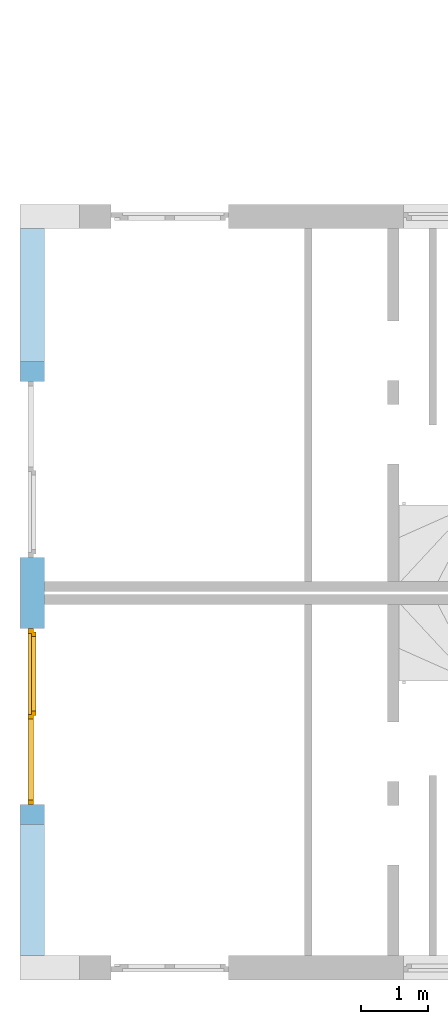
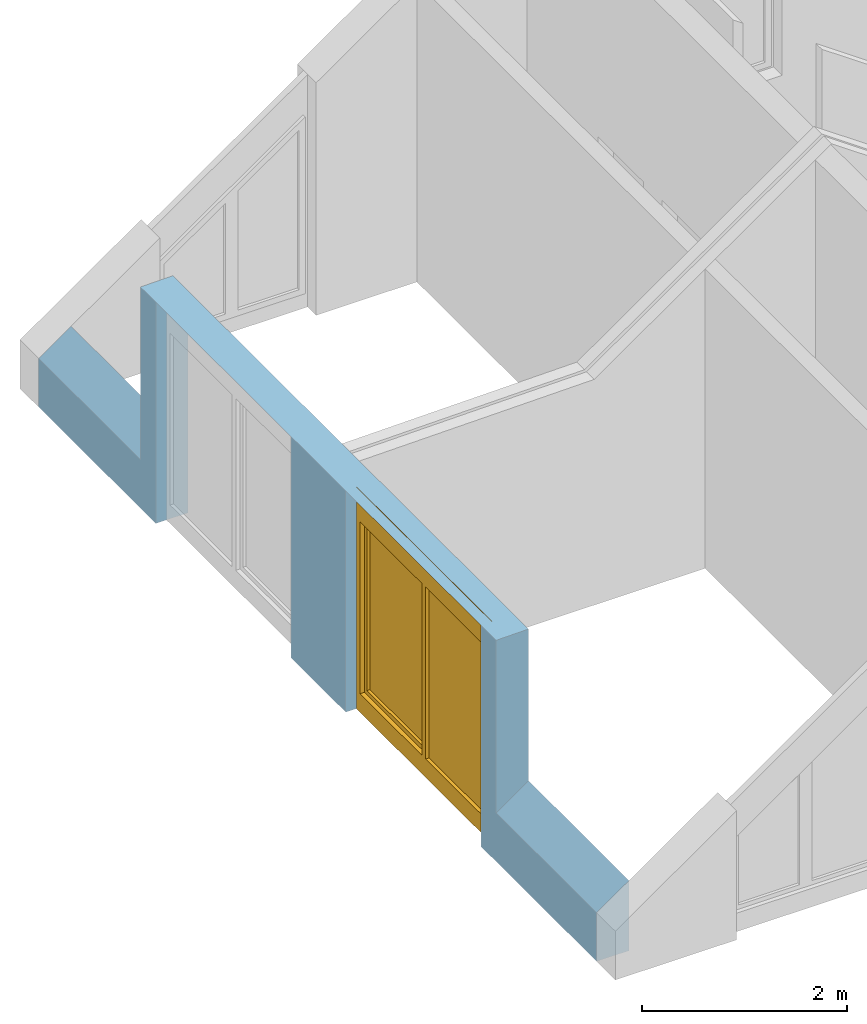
# One storey, part 7 of 23: 1 window, 2 openings, plus 1 element that does not belong to this part.
"""IFC2X3 building model written with IfcOpenShell, lengths in millimetres."""

from ifc_helpers import new_model, entity, si_unit, converted_unit, frame, frame_2d, origin, origin_with_axes, place, context, subcontext, project, spatial, polyline, rectangle, extrude, clip, bounded_halfspace, faceted_brep, material, layer, layer_set, layer_usage, type_object, element, fill, save


model = new_model("IFC2X3")

# Units and contexts
model_context = context("Model", 3, precision=1e-05, world=origin())
body_context = subcontext(model_context, "Body", "Model", "MODEL_VIEW")
ifc_project = project(units=[si_unit("LENGTHUNIT", "METRE", prefix="MILLI"), converted_unit("PLANEANGLEUNIT", "DEGREE", entity("IfcPlaneAngleMeasure", 0.0174532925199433), si_unit("PLANEANGLEUNIT", "RADIAN"), dimensions=[0, 0, 0, 0, 0, 0, 0]), si_unit("AREAUNIT", "SQUARE_METRE"), si_unit("VOLUMEUNIT", "CUBIC_METRE")], contexts=[model_context])

# Building, storey
building_placement = place(None, origin())
building = spatial("IfcBuilding", under=ifc_project, at=building_placement, Name="Gebäude", CompositionType="ELEMENT")
storey_placement = place(building_placement, frame((0.0, 0.0, 5580.0), z_axis=(0.0, 0.0, 1.0), x_axis=(1.0, 0.0, 0.0)))
storey = spatial("IfcBuildingStorey", under=building, at=storey_placement, Name="DG.- Grundriss", CompositionType="ELEMENT", Elevation=5580.0)

# Wall, openings, window
ifc_material_1 = material(Name="Poroton")
ifc_layer = layer(ifc_material_1, 365.0)
ifc_layer_set = layer_set([ifc_layer])
ifc_layer_usage = layer_usage(ifc_layer_set, "AXIS2", "POSITIVE", 0.0)
wall_placement = place(storey_placement, frame((130992.7928067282, 136524.8877324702, 0.0), z_axis=(0.0, 0.0, 1.0), x_axis=(1.336877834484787e-14, -1.0, 0.0)))
wall = element("IfcWallStandardCase", 1, at=wall_placement, inside=storey, material=ifc_layer_usage, Name="<Unnamed Element>", context=body_context, shape_type="Clipping", body=[
    clip(clip(clip(extrude(rectangle(XDim=10884.99999999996, YDim=365.0, at=frame_2d((5442.499999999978, 182.5), x_axis=(1.0, 0.0))), origin_with_axes(), (0.0, 0.0, 1.0), 2641.54564934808), bounded_halfspace(frame((4.879604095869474e-12, 365.0, 835.5757514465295), z_axis=(7.329234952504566e-15, 0.5735764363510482, -0.8191520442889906), x_axis=(-1.095106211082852e-14, -0.81915204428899, -0.5735764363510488)), True, origin(), polyline([(4.879604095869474e-12, 365.0), (0.0, 0.0), (1984.987487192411, 2.566972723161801e-12), (1984.987487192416, 365.0000000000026), (4.879604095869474e-12, 365.0)]))), bounded_halfspace(frame((8924.99999999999, 364.9999999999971, 835.5757514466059), z_axis=(7.320750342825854e-15, 0.5735764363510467, -0.8191520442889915), x_axis=(-1.095106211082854e-14, -0.8191520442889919, -0.573576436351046)), True, origin(), polyline([(8924.99999999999, 364.9999999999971), (8924.999999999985, -2.901024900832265e-12), (10884.99999999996, 0.0), (10885.00000001, 365.0), (8924.99999999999, 364.9999999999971)]))), bounded_halfspace(frame((1984.987487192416, 365.0000000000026, 2641.54564934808), z_axis=(1.372830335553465e-17, 0.01745240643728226, -0.9998476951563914), x_axis=(-1.336674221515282e-14, -0.9998476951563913, -0.01745240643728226)), True, origin(), polyline([(1984.987487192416, 365.0000000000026), (1984.987487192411, 2.566972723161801e-12), (8924.999999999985, -2.901024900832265e-12), (8924.99999999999, 364.9999999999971), (1984.987487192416, 365.0000000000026)]))),
])
opening_1_placement = place(wall_placement, frame((2284.987487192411, -4.147113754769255e-12, 0.0), z_axis=(0.0, 1.0, 0.0), x_axis=(0.0, 0.0, 1.0)))
element("IfcOpeningElement", 2, at=opening_1_placement, cuts=wall, Name="Fensteröffnung", ObjectType="Opening", context=body_context, shape_type="SweptSolid", body=[
    extrude(rectangle(XDim=2635.174550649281, YDim=2635.0, at=frame_2d((1317.58727532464, 1317.5), x_axis=(1.0, 0.0))), origin_with_axes(), (0.0, 0.0, 1.0), 365.0000000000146),
])
opening_2_placement = place(wall_placement, frame((5989.999999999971, 1.455191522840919e-13, 0.0), z_axis=(0.0, 1.0, 0.0), x_axis=(0.0, 0.0, 1.0)))
opening_2 = element("IfcOpeningElement", 3, at=opening_2_placement, cuts=wall, Name="Fensteröffnung", ObjectType="Opening", context=body_context, shape_type="SweptSolid", body=[
    extrude(rectangle(XDim=2635.174550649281, YDim=2635.0, at=frame_2d((1317.58727532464, 1317.5), x_axis=(1.0, 0.0))), origin_with_axes(), (0.0, 0.0, 1.0), 364.9999999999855),
])
ifc_material_2 = material()
window_style = type_object("IfcWindowStyle", Name="Fenster", ConstructionType="NOTDEFINED", OperationType="USERDEFINED", ParameterTakesPrecedence=False, Sizeable=False)
window_placement = place(opening_2_placement, frame((0.0, 0.0, 0.0), z_axis=(1.0, 0.0, 0.0), x_axis=(0.0, 1.0, 0.0)))
window = element("IfcWindow", 4, at=window_placement, inside=storey, type_object=window_style, material=ifc_material_2, Name="Fenster", OverallHeight=2641.54564934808, OverallWidth=2635.0, context=body_context, shape_type="Brep", body=[
    faceted_brep([(1.064603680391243e-12, 200.0000000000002, 2637.269158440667), (1.064603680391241e-12, 200.0, -2.449293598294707e-15), (70.00000000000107, 199.9999999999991, -2.449293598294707e-15), (70.00000000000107, 199.9999999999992, 2637.269158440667), (0.0, 120.0, 2.449293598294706e-15), (2.080227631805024e-27, 120.0000000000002, 2637.269158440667), (70.0, 119.9999999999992, 2637.269158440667), (70.0, 119.9999999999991, 2.449293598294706e-15), (1.064603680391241e-12, 200.0, -2.449293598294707e-15), (1.064603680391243e-12, 200.0000000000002, 2637.269158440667), (2.080227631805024e-27, 120.0000000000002, 2637.269158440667), (0.0, 120.0, 2.449293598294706e-15), (70.00000000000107, 199.9999999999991, -2.449293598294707e-15), (1.064603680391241e-12, 200.0, -2.449293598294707e-15), (0.0, 120.0, 2.449293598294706e-15), (70.0, 119.9999999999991, 2.449293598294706e-15), (70.00000000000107, 199.9999999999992, 2637.269158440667), (70.00000000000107, 199.9999999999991, -2.449293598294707e-15), (70.0, 119.9999999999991, 2.449293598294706e-15), (70.0, 119.9999999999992, 2637.269158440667), (1.064603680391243e-12, 200.0000000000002, 2637.269158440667), (70.00000000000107, 199.9999999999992, 2637.269158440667), (70.0, 119.9999999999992, 2637.269158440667), (2.080227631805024e-27, 120.0000000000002, 2637.269158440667)], [[[0, 1, 2, 3]], [[4, 5, 6, 7]], [[8, 9, 10, 11]], [[12, 13, 14, 15]], [[16, 17, 18, 19]], [[20, 21, 22, 23]]], orient=[[False], [False], [False], [False], [False], [False]]),
    faceted_brep([(2565.000000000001, 199.999999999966, 2637.269158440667), (2565.000000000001, 199.9999999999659, -2.449293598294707e-15), (2635.000000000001, 199.9999999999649, -2.449293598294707e-15), (2635.000000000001, 199.9999999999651, 2637.269158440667), (2565.0, 119.9999999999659, 2.449293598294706e-15), (2565.0, 119.999999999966, 2637.269158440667), (2635.0, 119.9999999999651, 2637.269158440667), (2635.0, 119.9999999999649, 2.449293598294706e-15), (2565.000000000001, 199.9999999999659, -2.449293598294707e-15), (2565.000000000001, 199.999999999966, 2637.269158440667), (2565.0, 119.999999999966, 2637.269158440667), (2565.0, 119.9999999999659, 2.449293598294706e-15), (2635.000000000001, 199.9999999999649, -2.449293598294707e-15), (2565.000000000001, 199.9999999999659, -2.449293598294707e-15), (2565.0, 119.9999999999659, 2.449293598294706e-15), (2635.0, 119.9999999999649, 2.449293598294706e-15), (2635.000000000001, 199.9999999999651, 2637.269158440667), (2635.000000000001, 199.9999999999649, -2.449293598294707e-15), (2635.0, 119.9999999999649, 2.449293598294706e-15), (2635.0, 119.9999999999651, 2637.269158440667), (2565.000000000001, 199.999999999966, 2637.269158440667), (2635.000000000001, 199.9999999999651, 2637.269158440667), (2635.0, 119.9999999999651, 2637.269158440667), (2565.0, 119.999999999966, 2637.269158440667)], [[[0, 1, 2, 3]], [[4, 5, 6, 7]], [[8, 9, 10, 11]], [[12, 13, 14, 15]], [[16, 17, 18, 19]], [[20, 21, 22, 23]]], orient=[[False], [False], [False], [False], [False], [False]]),
    faceted_brep([(70.00000000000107, 199.9999999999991, 220.0), (70.00000000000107, 199.9999999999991, -2.449293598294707e-15), (2565.000000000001, 199.9999999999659, -2.449293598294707e-15), (2565.000000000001, 199.9999999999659, 220.0), (70.0, 119.9999999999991, 2.449293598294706e-15), (70.0, 119.9999999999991, 220.0), (2565.0, 119.9999999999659, 220.0), (2565.0, 119.9999999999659, 2.449293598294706e-15), (70.00000000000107, 199.9999999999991, -2.449293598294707e-15), (70.00000000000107, 199.9999999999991, 220.0), (70.0, 119.9999999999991, 220.0), (70.0, 119.9999999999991, 2.449293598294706e-15), (2565.000000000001, 199.9999999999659, -2.449293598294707e-15), (70.00000000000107, 199.9999999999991, -2.449293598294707e-15), (70.0, 119.9999999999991, 2.449293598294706e-15), (2565.0, 119.9999999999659, 2.449293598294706e-15), (2565.000000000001, 199.9999999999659, 220.0), (2565.000000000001, 199.9999999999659, -2.449293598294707e-15), (2565.0, 119.9999999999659, 2.449293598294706e-15), (2565.0, 119.9999999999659, 220.0), (70.00000000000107, 199.9999999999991, 220.0), (2565.000000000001, 199.9999999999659, 220.0), (2565.0, 119.9999999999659, 220.0), (70.0, 119.9999999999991, 220.0)], [[[0, 1, 2, 3]], [[4, 5, 6, 7]], [[8, 9, 10, 11]], [[12, 13, 14, 15]], [[16, 17, 18, 19]], [[20, 21, 22, 23]]], orient=[[False], [False], [False], [False], [False], [False]]),
    faceted_brep([(70.00000000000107, 199.9999999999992, 2637.269158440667), (70.00000000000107, 199.9999999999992, 2267.269158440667), (2565.000000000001, 199.999999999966, 2267.269158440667), (2565.000000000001, 199.999999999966, 2637.269158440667), (70.0, 119.9999999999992, 2267.269158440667), (70.0, 119.9999999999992, 2637.269158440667), (2565.0, 119.999999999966, 2637.269158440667), (2565.0, 119.999999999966, 2267.269158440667), (70.00000000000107, 199.9999999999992, 2267.269158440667), (70.00000000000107, 199.9999999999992, 2637.269158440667), (70.0, 119.9999999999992, 2637.269158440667), (70.0, 119.9999999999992, 2267.269158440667), (2565.000000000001, 199.999999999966, 2267.269158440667), (70.00000000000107, 199.9999999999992, 2267.269158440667), (70.0, 119.9999999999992, 2267.269158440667), (2565.0, 119.999999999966, 2267.269158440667), (2565.000000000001, 199.999999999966, 2637.269158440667), (2565.000000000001, 199.999999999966, 2267.269158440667), (2565.0, 119.999999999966, 2267.269158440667), (2565.0, 119.999999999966, 2637.269158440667), (70.00000000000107, 199.9999999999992, 2637.269158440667), (2565.000000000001, 199.999999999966, 2637.269158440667), (2565.0, 119.999999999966, 2637.269158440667), (70.0, 119.9999999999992, 2637.269158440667)], [[[0, 1, 2, 3]], [[4, 5, 6, 7]], [[8, 9, 10, 11]], [[12, 13, 14, 15]], [[16, 17, 18, 19]], [[20, 21, 22, 23]]], orient=[[False], [False], [False], [False], [False], [False]]),
    faceted_brep([(1282.500000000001, 199.9999999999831, 2267.269158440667), (1282.500000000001, 199.999999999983, 220.0), (1352.500000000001, 199.999999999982, 220.0), (1352.500000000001, 199.9999999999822, 2267.269158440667), (1282.5, 119.999999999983, 220.0), (1282.5, 119.9999999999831, 2267.269158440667), (1352.5, 119.9999999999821, 2267.269158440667), (1352.5, 119.999999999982, 220.0), (1282.500000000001, 199.999999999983, 220.0), (1282.500000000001, 199.9999999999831, 2267.269158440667), (1282.5, 119.9999999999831, 2267.269158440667), (1282.5, 119.999999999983, 220.0), (1352.500000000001, 199.999999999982, 220.0), (1282.500000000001, 199.999999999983, 220.0), (1282.5, 119.999999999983, 220.0), (1352.5, 119.999999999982, 220.0), (1352.500000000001, 199.9999999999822, 2267.269158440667), (1352.500000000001, 199.999999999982, 220.0), (1352.5, 119.999999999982, 220.0), (1352.5, 119.9999999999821, 2267.269158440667), (1282.500000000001, 199.9999999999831, 2267.269158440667), (1352.500000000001, 199.9999999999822, 2267.269158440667), (1352.5, 119.9999999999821, 2267.269158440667), (1282.5, 119.9999999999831, 2267.269158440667)], [[[0, 1, 2, 3]], [[4, 5, 6, 7]], [[8, 9, 10, 11]], [[12, 13, 14, 15]], [[16, 17, 18, 19]], [[20, 21, 22, 23]]], orient=[[False], [False], [False], [False], [False], [False]]),
    faceted_brep([(50.0000000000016, 239.9999999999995, 2287.269158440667), (50.0000000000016, 239.9999999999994, 200.0), (120.0000000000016, 239.9999999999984, 200.0), (120.0000000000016, 239.9999999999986, 2287.269158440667), (50.00000000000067, 169.9999999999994, 200.0), (50.00000000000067, 169.9999999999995, 2287.269158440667), (120.0000000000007, 169.9999999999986, 2287.269158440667), (120.0000000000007, 169.9999999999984, 200.0), (50.0000000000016, 239.9999999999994, 200.0), (50.0000000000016, 239.9999999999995, 2287.269158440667), (50.00000000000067, 169.9999999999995, 2287.269158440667), (50.00000000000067, 169.9999999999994, 200.0), (120.0000000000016, 239.9999999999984, 200.0), (50.0000000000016, 239.9999999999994, 200.0), (50.00000000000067, 169.9999999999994, 200.0), (120.0000000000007, 169.9999999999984, 200.0), (120.0000000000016, 239.9999999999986, 2287.269158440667), (120.0000000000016, 239.9999999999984, 200.0), (120.0000000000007, 169.9999999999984, 200.0), (120.0000000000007, 169.9999999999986, 2287.269158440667), (50.0000000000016, 239.9999999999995, 2287.269158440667), (120.0000000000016, 239.9999999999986, 2287.269158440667), (120.0000000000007, 169.9999999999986, 2287.269158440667), (50.00000000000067, 169.9999999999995, 2287.269158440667)], [[[0, 1, 2, 3]], [[4, 5, 6, 7]], [[8, 9, 10, 11]], [[12, 13, 14, 15]], [[16, 17, 18, 19]], [[20, 21, 22, 23]]], orient=[[False], [False], [False], [False], [False], [False]]),
    faceted_brep([(1232.500000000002, 239.9999999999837, 2287.269158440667), (1232.500000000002, 239.9999999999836, 200.0), (1302.500000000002, 239.9999999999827, 200.0), (1302.500000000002, 239.9999999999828, 2287.269158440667), (1232.500000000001, 169.9999999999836, 200.0), (1232.500000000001, 169.9999999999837, 2287.269158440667), (1302.500000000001, 169.9999999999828, 2287.269158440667), (1302.500000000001, 169.9999999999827, 200.0), (1232.500000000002, 239.9999999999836, 200.0), (1232.500000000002, 239.9999999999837, 2287.269158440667), (1232.500000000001, 169.9999999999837, 2287.269158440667), (1232.500000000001, 169.9999999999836, 200.0), (1302.500000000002, 239.9999999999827, 200.0), (1232.500000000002, 239.9999999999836, 200.0), (1232.500000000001, 169.9999999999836, 200.0), (1302.500000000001, 169.9999999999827, 200.0), (1302.500000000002, 239.9999999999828, 2287.269158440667), (1302.500000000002, 239.9999999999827, 200.0), (1302.500000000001, 169.9999999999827, 200.0), (1302.500000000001, 169.9999999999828, 2287.269158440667), (1232.500000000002, 239.9999999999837, 2287.269158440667), (1302.500000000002, 239.9999999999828, 2287.269158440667), (1302.500000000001, 169.9999999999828, 2287.269158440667), (1232.500000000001, 169.9999999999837, 2287.269158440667)], [[[0, 1, 2, 3]], [[4, 5, 6, 7]], [[8, 9, 10, 11]], [[12, 13, 14, 15]], [[16, 17, 18, 19]], [[20, 21, 22, 23]]], orient=[[False], [False], [False], [False], [False], [False]]),
    faceted_brep([(120.0000000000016, 239.9999999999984, 269.9999999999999), (120.0000000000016, 239.9999999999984, 200.0), (1232.500000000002, 239.9999999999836, 200.0), (1232.500000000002, 239.9999999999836, 269.9999999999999), (120.0000000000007, 169.9999999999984, 200.0), (120.0000000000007, 169.9999999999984, 269.9999999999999), (1232.500000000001, 169.9999999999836, 269.9999999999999), (1232.500000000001, 169.9999999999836, 200.0), (120.0000000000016, 239.9999999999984, 200.0), (120.0000000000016, 239.9999999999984, 269.9999999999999), (120.0000000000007, 169.9999999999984, 269.9999999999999), (120.0000000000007, 169.9999999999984, 200.0), (1232.500000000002, 239.9999999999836, 200.0), (120.0000000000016, 239.9999999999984, 200.0), (120.0000000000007, 169.9999999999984, 200.0), (1232.500000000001, 169.9999999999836, 200.0), (1232.500000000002, 239.9999999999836, 269.9999999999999), (1232.500000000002, 239.9999999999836, 200.0), (1232.500000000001, 169.9999999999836, 200.0), (1232.500000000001, 169.9999999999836, 269.9999999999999), (120.0000000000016, 239.9999999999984, 269.9999999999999), (1232.500000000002, 239.9999999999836, 269.9999999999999), (1232.500000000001, 169.9999999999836, 269.9999999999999), (120.0000000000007, 169.9999999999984, 269.9999999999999)], [[[0, 1, 2, 3]], [[4, 5, 6, 7]], [[8, 9, 10, 11]], [[12, 13, 14, 15]], [[16, 17, 18, 19]], [[20, 21, 22, 23]]], orient=[[False], [False], [False], [False], [False], [False]]),
    faceted_brep([(120.0000000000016, 239.9999999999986, 2287.269158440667), (120.0000000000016, 239.9999999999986, 2217.269158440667), (1232.500000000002, 239.9999999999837, 2217.269158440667), (1232.500000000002, 239.9999999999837, 2287.269158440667), (120.0000000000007, 169.9999999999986, 2217.269158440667), (120.0000000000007, 169.9999999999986, 2287.269158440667), (1232.500000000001, 169.9999999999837, 2287.269158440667), (1232.500000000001, 169.9999999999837, 2217.269158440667), (120.0000000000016, 239.9999999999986, 2217.269158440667), (120.0000000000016, 239.9999999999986, 2287.269158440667), (120.0000000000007, 169.9999999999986, 2287.269158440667), (120.0000000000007, 169.9999999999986, 2217.269158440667), (1232.500000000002, 239.9999999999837, 2217.269158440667), (120.0000000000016, 239.9999999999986, 2217.269158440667), (120.0000000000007, 169.9999999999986, 2217.269158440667), (1232.500000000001, 169.9999999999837, 2217.269158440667), (1232.500000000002, 239.9999999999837, 2287.269158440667), (1232.500000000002, 239.9999999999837, 2217.269158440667), (1232.500000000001, 169.9999999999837, 2217.269158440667), (1232.500000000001, 169.9999999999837, 2287.269158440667), (120.0000000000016, 239.9999999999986, 2287.269158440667), (1232.500000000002, 239.9999999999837, 2287.269158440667), (1232.500000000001, 169.9999999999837, 2287.269158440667), (120.0000000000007, 169.9999999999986, 2287.269158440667)], [[[0, 1, 2, 3]], [[4, 5, 6, 7]], [[8, 9, 10, 11]], [[12, 13, 14, 15]], [[16, 17, 18, 19]], [[20, 21, 22, 23]]], orient=[[False], [False], [False], [False], [False], [False]]),
    faceted_brep([(1352.500000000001, 159.999999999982, 220.0), (2565.000000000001, 159.9999999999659, 220.0), (2565.000000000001, 159.999999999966, 2267.269158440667), (1352.500000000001, 159.9999999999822, 2267.269158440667), (1352.500000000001, 158.999999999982, 220.0), (1352.500000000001, 158.9999999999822, 2267.269158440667), (2565.000000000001, 158.999999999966, 2267.269158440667), (2565.000000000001, 158.9999999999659, 220.0), (1352.500000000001, 159.999999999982, 220.0), (1352.500000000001, 158.999999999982, 220.0), (2565.000000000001, 158.9999999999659, 220.0), (2565.000000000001, 159.9999999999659, 220.0), (2565.000000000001, 159.9999999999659, 220.0), (2565.000000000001, 158.9999999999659, 220.0), (2565.000000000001, 158.999999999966, 2267.269158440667), (2565.000000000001, 159.999999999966, 2267.269158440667), (2565.000000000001, 159.999999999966, 2267.269158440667), (2565.000000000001, 158.999999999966, 2267.269158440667), (1352.500000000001, 158.9999999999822, 2267.269158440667), (1352.500000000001, 159.9999999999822, 2267.269158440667), (1352.500000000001, 159.9999999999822, 2267.269158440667), (1352.500000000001, 158.9999999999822, 2267.269158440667), (1352.500000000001, 158.999999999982, 220.0), (1352.500000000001, 159.999999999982, 220.0)], [[[0, 1, 2, 3]], [[4, 5, 6, 7]], [[8, 9, 10, 11]], [[12, 13, 14, 15]], [[16, 17, 18, 19]], [[20, 21, 22, 23]]], orient=[[False], [False], [False], [False], [False], [False]]),
    faceted_brep([(120.0000000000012, 204.9999999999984, 269.9999999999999), (1232.500000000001, 204.9999999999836, 269.9999999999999), (1232.500000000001, 204.9999999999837, 2217.269158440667), (120.0000000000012, 204.9999999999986, 2217.269158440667), (120.0000000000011, 203.9999999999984, 269.9999999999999), (120.0000000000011, 203.9999999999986, 2217.269158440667), (1232.500000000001, 203.9999999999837, 2217.269158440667), (1232.500000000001, 203.9999999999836, 269.9999999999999), (120.0000000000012, 204.9999999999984, 269.9999999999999), (120.0000000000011, 203.9999999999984, 269.9999999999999), (1232.500000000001, 203.9999999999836, 269.9999999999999), (1232.500000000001, 204.9999999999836, 269.9999999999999), (1232.500000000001, 204.9999999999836, 269.9999999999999), (1232.500000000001, 203.9999999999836, 269.9999999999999), (1232.500000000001, 203.9999999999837, 2217.269158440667), (1232.500000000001, 204.9999999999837, 2217.269158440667), (1232.500000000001, 204.9999999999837, 2217.269158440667), (1232.500000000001, 203.9999999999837, 2217.269158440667), (120.0000000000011, 203.9999999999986, 2217.269158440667), (120.0000000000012, 204.9999999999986, 2217.269158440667), (120.0000000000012, 204.9999999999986, 2217.269158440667), (120.0000000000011, 203.9999999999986, 2217.269158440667), (120.0000000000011, 203.9999999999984, 269.9999999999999), (120.0000000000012, 204.9999999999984, 269.9999999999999)], [[[0, 1, 2, 3]], [[4, 5, 6, 7]], [[8, 9, 10, 11]], [[12, 13, 14, 15]], [[16, 17, 18, 19]], [[20, 21, 22, 23]]], orient=[[False], [False], [False], [False], [False], [False]]),
])
fill(opening_2, window)

save(model, "model.ifc")
